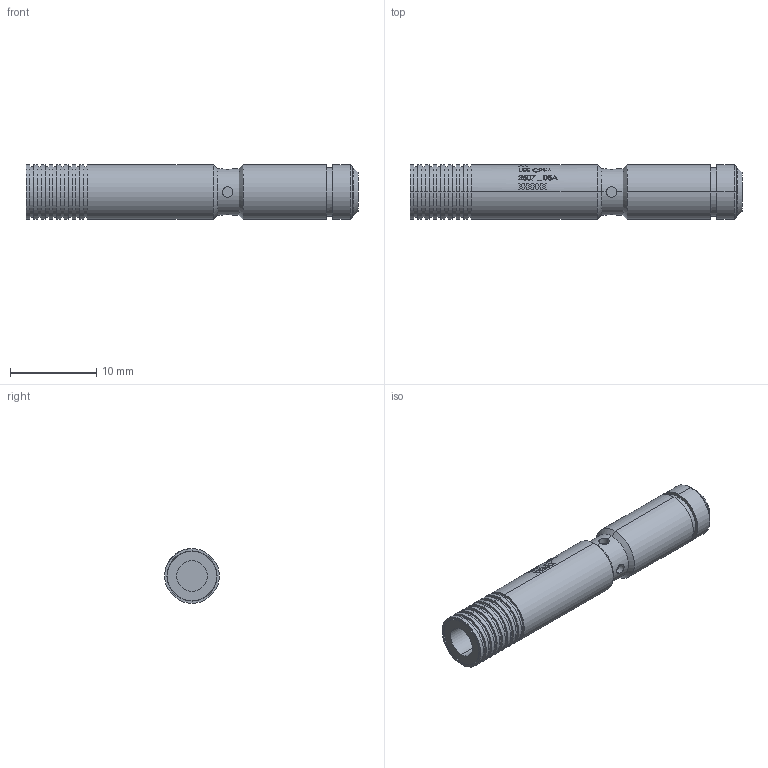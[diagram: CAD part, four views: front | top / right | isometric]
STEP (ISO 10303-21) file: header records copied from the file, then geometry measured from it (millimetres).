
FILE_DESCRIPTION (( 'STEP AP214' ), '1' );
FILE_NAME ('3DCPFA2507-05A.STEP', '2021-03-31T13:49:53', ( '' ), ( '' ), 'SwSTEP 2.0', 'SolidWorks 2019', '' );
FILE_SCHEMA (( 'AUTOMOTIVE_DESIGN' ));
Length unit declared in the file: inch
Products named in the file (1): 3DCPFA2507-05A
Bounding box: 38.48 x 6.35 x 6.35 mm (x, y, z)
Volume: 1071.8 mm3; surface area: 1017.7 mm2
Topology: 1 solids, 1 shells, 372 faces, 939 edges, 620 vertices
Faces by surface type: bspline 143, plane 135, cylinder 80, cone 14
Entity records: 17907 total; most frequent: CARTESIAN_POINT 6575, ORIENTED_EDGE 1878, DIRECTION 1079, EDGE_CURVE 939, VERTEX_POINT 620, B_SPLINE_CURVE_WITH_KNOTS 488, EDGE_LOOP 423, AXIS2_PLACEMENT_3D 398
